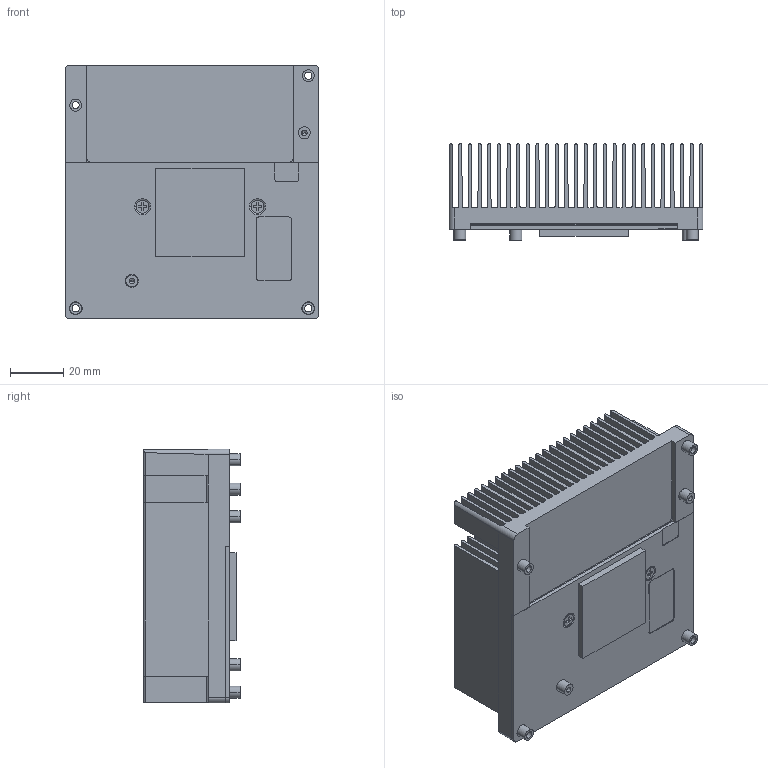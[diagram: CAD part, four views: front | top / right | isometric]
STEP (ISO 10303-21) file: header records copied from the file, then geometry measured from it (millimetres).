
FILE_DESCRIPTION((''),'2;1');
FILE_NAME('E1961213150009R_ASM','2024-10-01T16:02:12',('gino_hsu'),(''),'CREO PARAMETRIC BY PTC INC, 2023294','CREO PARAMETRIC BY PTC INC, 2023294','');
FILE_SCHEMA(('CONFIG_CONTROL_DESIGN'));
Length unit declared in the file: millimetre
Products named in the file (4): ESM-KX60G-SINK; ESM-KX60G-AU; E1931010411R; E1961213150009R_ASM
Assembly tree (4 placements, depth 2):
  E1961213150009R_ASM
    ESM-KX60G-SINK
    ESM-KX60G-AU
    E1931010411R  x2
Bounding box: 95 x 36 x 95 mm (x, y, z)
Volume: 139260.4 mm3; surface area: 150105.4 mm2
Topology: 6 solids, 6 shells, 403 faces, 1078 edges, 701 vertices
Faces by surface type: cylinder 191, plane 178, cone 24, bspline 10
Entity records: 13427 total; most frequent: CARTESIAN_POINT 4055, DIRECTION 1978, ORIENTED_EDGE 1922, EDGE_CURVE 961, AXIS2_PLACEMENT_3D 693, VERTEX_POINT 631, VECTOR 592, LINE 592
